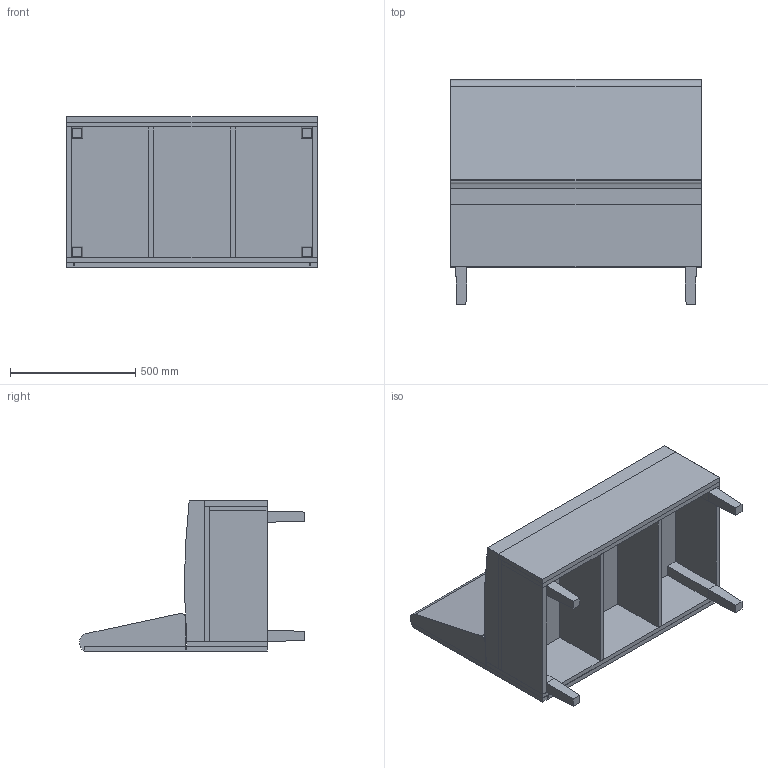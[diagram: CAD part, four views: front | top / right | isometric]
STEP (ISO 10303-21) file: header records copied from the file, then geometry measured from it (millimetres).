
FILE_DESCRIPTION (( 'STEP AP214' ), '1' );
FILE_NAME ('Banquette MALAGA Standard.STEP', '2025-06-25T08:44:58', ( '' ), ( '' ), 'SwSTEP 2.0', 'SolidWorks 2021', '' );
FILE_SCHEMA (( 'AUTOMOTIVE_DESIGN' ));
Length unit declared in the file: millimetre
Products named in the file (1): Banquette MALAGA Standard
Bounding box: 1002 x 899.97 x 600 mm (x, y, z)
Volume: 132813482.1 mm3; surface area: 9224121.5 mm2
Topology: 21 solids, 21 shells, 157 faces, 329 edges, 214 vertices
Faces by surface type: plane 147, cylinder 10
Entity records: 5376 total; most frequent: CARTESIAN_POINT 701, DIRECTION 665, ORIENTED_EDGE 658, EDGE_CURVE 329, LINE 309, VECTOR 309, VERTEX_POINT 214, AXIS2_PLACEMENT_3D 178
